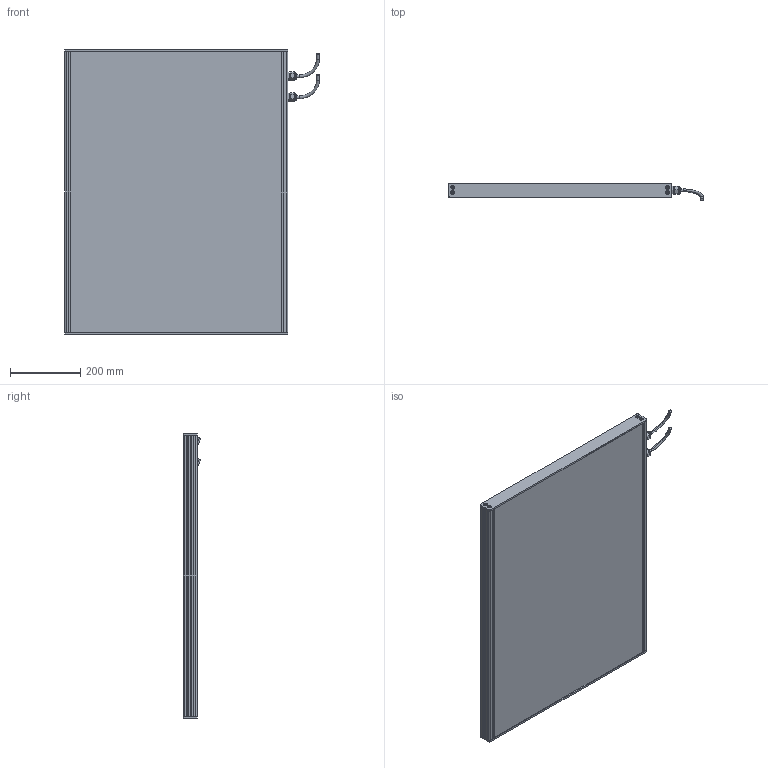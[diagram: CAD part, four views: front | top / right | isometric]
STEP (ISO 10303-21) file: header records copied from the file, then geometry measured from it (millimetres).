
FILE_DESCRIPTION (( 'STEP AP214' ), '1' );
FILE_NAME ('EFFI-BL-600-800T-1M12P.STEP', '2021-07-02T10:30:18', ( '' ), ( '' ), 'SwSTEP 2.0', 'SolidWorks 2021', '' );
FILE_SCHEMA (( 'AUTOMOTIVE_DESIGN' ));
Length unit declared in the file: millimetre
Products named in the file (7): profile modif_lg 99.5 mm; EFFI-BL-600-800T-1M12P; 003776; bord fin modif_lg 436.5 mm; Pièce2^EFFI-BL-XXX-YYYT + 2 M12P; M12 power
Assembly tree (15 placements, depth 2):
  EFFI-BL-600-800T-1M12P
    bord fin modif_lg 436.5 mm  x2
    profile modif_lg 99.5 mm
    Pièce2^EFFI-BL-XXX-YYYT + 2 M12P
    profile modif_lg 99.5 mm
    M12 power  x2
    003776  x8
Bounding box: 726.45 x 49.72 x 810 mm (x, y, z)
Volume: 17781420.1 mm3; surface area: 1417288.3 mm2
Topology: 13 solids, 19 shells, 625 faces, 1582 edges, 1014 vertices
Faces by surface type: plane 360, bspline 125, cylinder 112, cone 20, torus 8
Entity records: 15910 total; most frequent: CARTESIAN_POINT 5250, ORIENTED_EDGE 2128, DIRECTION 1806, EDGE_CURVE 1066, LINE 780, VECTOR 780, VERTEX_POINT 703, AXIS2_PLACEMENT_3D 513
